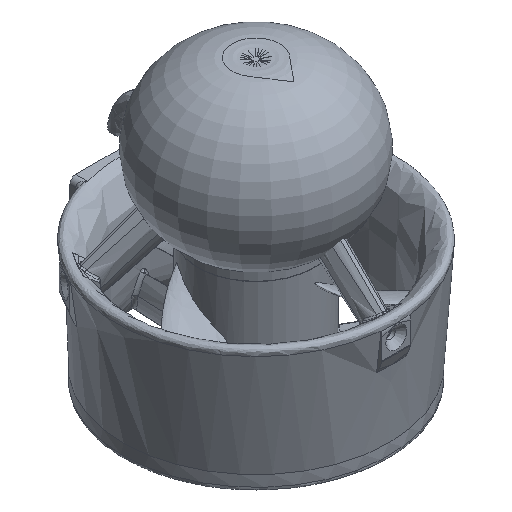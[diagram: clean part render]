
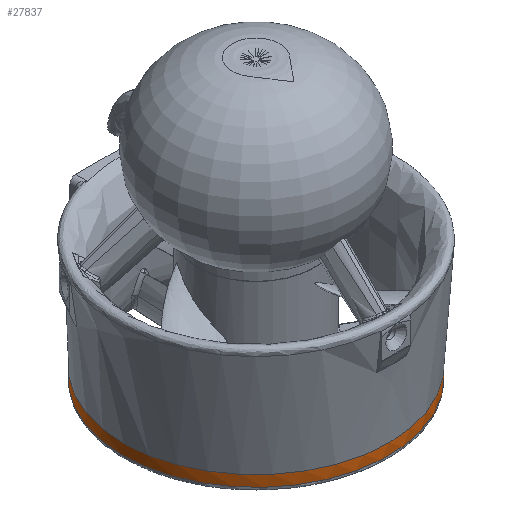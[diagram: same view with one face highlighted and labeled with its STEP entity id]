
A CAD part, isometric view. The second image highlights one B-rep face of the part: STEP entity #27837.
In plain terms, the highlighted cylindrical face has radius 45.676 mm (diameter 91.353 mm), a partial arc.
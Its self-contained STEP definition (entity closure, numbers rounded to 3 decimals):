
#1460 = DIRECTION ( 'NONE',  ( 0., -1., 0. ) ) ;
#1862 = CARTESIAN_POINT ( 'NONE',  ( -15.975, 42.792, -52.853 ) ) ;
#3289 = CARTESIAN_POINT ( 'NONE',  ( -15.975, 42.792, -56.112 ) ) ;
#3965 = ORIENTED_EDGE ( 'NONE', *, *, #26069, .T. ) ;
#4075 = CARTESIAN_POINT ( 'NONE',  ( 15.975, 42.792, -53.939 ) ) ;
#4415 = CARTESIAN_POINT ( 'NONE',  ( 0., 0., -56.639 ) ) ;
#4473 = B_SPLINE_CURVE_WITH_KNOTS ( 'NONE', 3,
 ( #14643, #34344, #8338, #24801 ),
 .UNSPECIFIED., .F., .F.,
 ( 4, 4 ),
 ( 0., 1. ),
 .UNSPECIFIED. ) ;
#5038 = EDGE_CURVE ( 'NONE', #7410, #9392, #20475, .T. ) ;
#5278 = VERTEX_POINT ( 'NONE', #34535 ) ;
#5570 = CARTESIAN_POINT ( 'NONE',  ( 15.937, 42.806, -56.639 ) ) ;
#6519 = DIRECTION ( 'NONE',  ( 0., -1., 0. ) ) ;
#7410 = VERTEX_POINT ( 'NONE', #37410 ) ;
#7797 = CARTESIAN_POINT ( 'NONE',  ( -15.975, 42.792, -56.112 ) ) ;
#8338 = CARTESIAN_POINT ( 'NONE',  ( 15.975, 42.792, -56.29 ) ) ;
#9036 = CYLINDRICAL_SURFACE ( 'NONE', #10208, 45.676 ) ;
#9392 = VERTEX_POINT ( 'NONE', #5570 ) ;
#9546 = EDGE_CURVE ( 'NONE', #40726, #5278, #21140, .T. ) ;
#10208 = AXIS2_PLACEMENT_3D ( 'NONE', #21320, #25078, #34235 ) ;
#12526 = ORIENTED_EDGE ( 'NONE', *, *, #22612, .T. ) ;
#13178 = CARTESIAN_POINT ( 'NONE',  ( -15.975, 42.792, -55.026 ) ) ;
#14643 = CARTESIAN_POINT ( 'NONE',  ( 15.937, 42.806, -56.639 ) ) ;
#14653 = AXIS2_PLACEMENT_3D ( 'NONE', #22565, #29116, #6519 ) ;
#17064 = CARTESIAN_POINT ( 'NONE',  ( -15.975, 42.792, -56.29 ) ) ;
#17636 = CARTESIAN_POINT ( 'NONE',  ( 15.975, 42.792, -56.112 ) ) ;
#19126 = AXIS2_PLACEMENT_3D ( 'NONE', #4415, #39868, #1460 ) ;
#19238 = ORIENTED_EDGE ( 'NONE', *, *, #9546, .T. ) ;
#20475 = CIRCLE ( 'NONE', #19126, 45.676 ) ;
#21140 = B_SPLINE_CURVE_WITH_KNOTS ( 'NONE', 3,
 ( #33028, #39747, #4075, #36365 ),
 .UNSPECIFIED., .F., .F.,
 ( 4, 4 ),
 ( 0., 1. ),
 .UNSPECIFIED. ) ;
#21320 = CARTESIAN_POINT ( 'NONE',  ( 0., 0., -102.317 ) ) ;
#22095 = CIRCLE ( 'NONE', #14653, 45.676 ) ;
#22171 = B_SPLINE_CURVE_WITH_KNOTS ( 'NONE', 3,
 ( #32452, #22508, #13178, #3289 ),
 .UNSPECIFIED., .F., .F.,
 ( 4, 4 ),
 ( 0., 1. ),
 .UNSPECIFIED. ) ;
#22508 = CARTESIAN_POINT ( 'NONE',  ( -15.975, 42.792, -53.939 ) ) ;
#22565 = CARTESIAN_POINT ( 'NONE',  ( 0., 0., -52.853 ) ) ;
#22612 = EDGE_CURVE ( 'NONE', #5278, #35607, #22095, .T. ) ;
#24801 = CARTESIAN_POINT ( 'NONE',  ( 15.975, 42.792, -56.112 ) ) ;
#25078 = DIRECTION ( 'NONE',  ( 0., 0., -1. ) ) ;
#26069 = EDGE_CURVE ( 'NONE', #35607, #26802, #22171, .T. ) ;
#26372 = CARTESIAN_POINT ( 'NONE',  ( -15.962, 42.797, -56.465 ) ) ;
#26802 = VERTEX_POINT ( 'NONE', #29313 ) ;
#27518 = EDGE_LOOP ( 'NONE', ( #34457, #34023, #19238, #12526, #3965, #33760 ) ) ;
#27837 = ADVANCED_FACE ( 'NONE', ( #41110 ), #9036, .T. ) ;
#28821 = EDGE_CURVE ( 'NONE', #9392, #40726, #4473, .T. ) ;
#29116 = DIRECTION ( 'NONE',  ( 0., 0., -1. ) ) ;
#29313 = CARTESIAN_POINT ( 'NONE',  ( -15.975, 42.792, -56.112 ) ) ;
#29598 = EDGE_CURVE ( 'NONE', #26802, #7410, #33681, .T. ) ;
#29989 = CARTESIAN_POINT ( 'NONE',  ( -15.937, 42.806, -56.639 ) ) ;
#32452 = CARTESIAN_POINT ( 'NONE',  ( -15.975, 42.792, -52.853 ) ) ;
#33028 = CARTESIAN_POINT ( 'NONE',  ( 15.975, 42.792, -56.112 ) ) ;
#33681 = B_SPLINE_CURVE_WITH_KNOTS ( 'NONE', 3,
 ( #7797, #17064, #26372, #29989 ),
 .UNSPECIFIED., .F., .F.,
 ( 4, 4 ),
 ( 0., 1. ),
 .UNSPECIFIED. ) ;
#33760 = ORIENTED_EDGE ( 'NONE', *, *, #29598, .T. ) ;
#34023 = ORIENTED_EDGE ( 'NONE', *, *, #28821, .T. ) ;
#34235 = DIRECTION ( 'NONE',  ( 0., -1., 0. ) ) ;
#34344 = CARTESIAN_POINT ( 'NONE',  ( 15.962, 42.797, -56.465 ) ) ;
#34457 = ORIENTED_EDGE ( 'NONE', *, *, #5038, .T. ) ;
#34535 = CARTESIAN_POINT ( 'NONE',  ( 15.975, 42.792, -52.853 ) ) ;
#35607 = VERTEX_POINT ( 'NONE', #1862 ) ;
#36365 = CARTESIAN_POINT ( 'NONE',  ( 15.975, 42.792, -52.853 ) ) ;
#37410 = CARTESIAN_POINT ( 'NONE',  ( -15.937, 42.806, -56.639 ) ) ;
#39747 = CARTESIAN_POINT ( 'NONE',  ( 15.975, 42.792, -55.026 ) ) ;
#39868 = DIRECTION ( 'NONE',  ( 0., 0., 1. ) ) ;
#40726 = VERTEX_POINT ( 'NONE', #17636 ) ;
#41110 = FACE_OUTER_BOUND ( 'NONE', #27518, .T. ) ;
